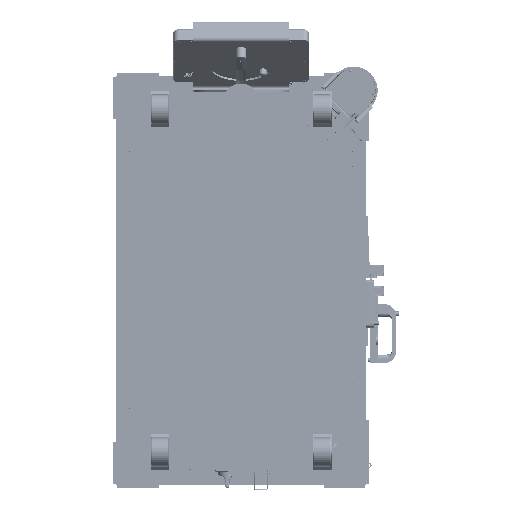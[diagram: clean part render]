
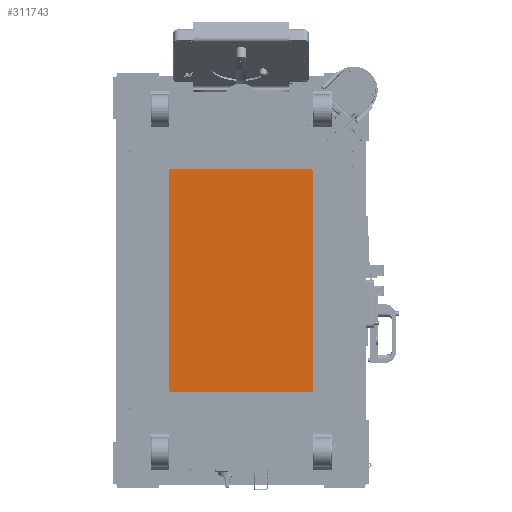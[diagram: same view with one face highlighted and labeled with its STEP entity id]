
A CAD part, front view. The second image highlights one B-rep face of the part: STEP entity #311743.
In plain terms, the highlighted planar face has unit normal (0, -1, 0).
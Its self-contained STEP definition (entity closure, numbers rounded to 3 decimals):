
#11650 = CARTESIAN_POINT ( 'NONE',  ( -182., 10., -275. ) ) ;
#27099 = EDGE_CURVE ( 'NONE', #918981, #1140514, #1192140, .T. ) ;
#33306 = DIRECTION ( 'NONE',  ( 1., 0., 0. ) ) ;
#45153 = DIRECTION ( 'NONE',  ( 0., 0., -1. ) ) ;
#56378 = AXIS2_PLACEMENT_3D ( 'NONE', #1141192, #250219, #1274309 ) ;
#59631 = EDGE_CURVE ( 'NONE', #842276, #721169, #600394, .T. ) ;
#67620 = ORIENTED_EDGE ( 'NONE', *, *, #546769, .T. ) ;
#120367 = CARTESIAN_POINT ( 'NONE',  ( -175., 10., 282. ) ) ;
#124317 = DIRECTION ( 'NONE',  ( 0., 1., 0. ) ) ;
#125826 = CARTESIAN_POINT ( 'NONE',  ( 175., 10., 282. ) ) ;
#144507 = CARTESIAN_POINT ( 'NONE',  ( -182., 10., 275. ) ) ;
#200343 = ORIENTED_EDGE ( 'NONE', *, *, #27099, .T. ) ;
#250219 = DIRECTION ( 'NONE',  ( 0., -1., 0. ) ) ;
#260944 = ORIENTED_EDGE ( 'NONE', *, *, #459496, .T. ) ;
#262469 = VECTOR ( 'NONE', #665000, 1000. ) ;
#266435 = FACE_OUTER_BOUND ( 'NONE', #784056, .T. ) ;
#295556 = CARTESIAN_POINT ( 'NONE',  ( -175., 10., -275. ) ) ;
#311743 = ADVANCED_FACE ( 'NONE', ( #266435 ), #718565, .F. ) ;
#369062 = CARTESIAN_POINT ( 'NONE',  ( -175., 10., 275. ) ) ;
#415986 = AXIS2_PLACEMENT_3D ( 'NONE', #606736, #124317, #619434 ) ;
#442476 = ORIENTED_EDGE ( 'NONE', *, *, #1044068, .T. ) ;
#459496 = EDGE_CURVE ( 'NONE', #1188954, #462660, #932450, .T. ) ;
#462660 = VERTEX_POINT ( 'NONE', #607872 ) ;
#476843 = DIRECTION ( 'NONE',  ( 0., 0., -1. ) ) ;
#503034 = ORIENTED_EDGE ( 'NONE', *, *, #1185357, .T. ) ;
#504884 = LINE ( 'NONE', #144507, #550745 ) ;
#546769 = EDGE_CURVE ( 'NONE', #1140514, #842276, #733981, .T. ) ;
#550745 = VECTOR ( 'NONE', #45153, 1000. ) ;
#571603 = CARTESIAN_POINT ( 'NONE',  ( 175., 10., -275. ) ) ;
#573935 = CARTESIAN_POINT ( 'NONE',  ( 182., 10., 275. ) ) ;
#600394 = CIRCLE ( 'NONE', #1015615, 7. ) ;
#606736 = CARTESIAN_POINT ( 'NONE',  ( 190., 10., 290. ) ) ;
#607872 = CARTESIAN_POINT ( 'NONE',  ( -175., 10., -282. ) ) ;
#619434 = DIRECTION ( 'NONE',  ( -1., 0., 0. ) ) ;
#665000 = DIRECTION ( 'NONE',  ( 0., 0., 1. ) ) ;
#671818 = CARTESIAN_POINT ( 'NONE',  ( 182., 10., -275. ) ) ;
#718565 = PLANE ( 'NONE',  #415986 ) ;
#721169 = VERTEX_POINT ( 'NONE', #1147562 ) ;
#733981 = LINE ( 'NONE', #120367, #857493 ) ;
#739224 = AXIS2_PLACEMENT_3D ( 'NONE', #295556, #1096186, #782309 ) ;
#753657 = EDGE_CURVE ( 'NONE', #721169, #1188954, #504884, .T. ) ;
#757405 = EDGE_CURVE ( 'NONE', #1070931, #800150, #915537, .T. ) ;
#761159 = DIRECTION ( 'NONE',  ( 0., 0., -1. ) ) ;
#767137 = VECTOR ( 'NONE', #33306, 1000. ) ;
#781322 = ORIENTED_EDGE ( 'NONE', *, *, #59631, .T. ) ;
#782309 = DIRECTION ( 'NONE',  ( 0., 0., -1. ) ) ;
#784056 = EDGE_LOOP ( 'NONE', ( #67620, #781322, #1200695, #260944, #442476, #986072, #503034, #200343 ) ) ;
#791827 = CARTESIAN_POINT ( 'NONE',  ( -175., 10., 282. ) ) ;
#800150 = VERTEX_POINT ( 'NONE', #671818 ) ;
#800859 = DIRECTION ( 'NONE',  ( -1., 0., 0. ) ) ;
#842276 = VERTEX_POINT ( 'NONE', #791827 ) ;
#857493 = VECTOR ( 'NONE', #800859, 1000. ) ;
#915537 = CIRCLE ( 'NONE', #1155013, 7. ) ;
#918981 = VERTEX_POINT ( 'NONE', #573935 ) ;
#932450 = CIRCLE ( 'NONE', #739224, 7. ) ;
#936418 = LINE ( 'NONE', #1229806, #767137 ) ;
#971697 = LINE ( 'NONE', #1056998, #262469 ) ;
#986072 = ORIENTED_EDGE ( 'NONE', *, *, #757405, .T. ) ;
#1015615 = AXIS2_PLACEMENT_3D ( 'NONE', #369062, #1259809, #761159 ) ;
#1044068 = EDGE_CURVE ( 'NONE', #462660, #1070931, #936418, .T. ) ;
#1056998 = CARTESIAN_POINT ( 'NONE',  ( 182., 10., 275. ) ) ;
#1066856 = DIRECTION ( 'NONE',  ( 0., -1., 0. ) ) ;
#1070931 = VERTEX_POINT ( 'NONE', #1096022 ) ;
#1096022 = CARTESIAN_POINT ( 'NONE',  ( 175., 10., -282. ) ) ;
#1096186 = DIRECTION ( 'NONE',  ( 0., -1., 0. ) ) ;
#1140514 = VERTEX_POINT ( 'NONE', #125826 ) ;
#1141192 = CARTESIAN_POINT ( 'NONE',  ( 175., 10., 275. ) ) ;
#1147562 = CARTESIAN_POINT ( 'NONE',  ( -182., 10., 275. ) ) ;
#1155013 = AXIS2_PLACEMENT_3D ( 'NONE', #571603, #1066856, #476843 ) ;
#1185357 = EDGE_CURVE ( 'NONE', #800150, #918981, #971697, .T. ) ;
#1188954 = VERTEX_POINT ( 'NONE', #11650 ) ;
#1192140 = CIRCLE ( 'NONE', #56378, 7. ) ;
#1200695 = ORIENTED_EDGE ( 'NONE', *, *, #753657, .T. ) ;
#1229806 = CARTESIAN_POINT ( 'NONE',  ( -175., 10., -282. ) ) ;
#1259809 = DIRECTION ( 'NONE',  ( 0., -1., 0. ) ) ;
#1274309 = DIRECTION ( 'NONE',  ( 0., 0., -1. ) ) ;
